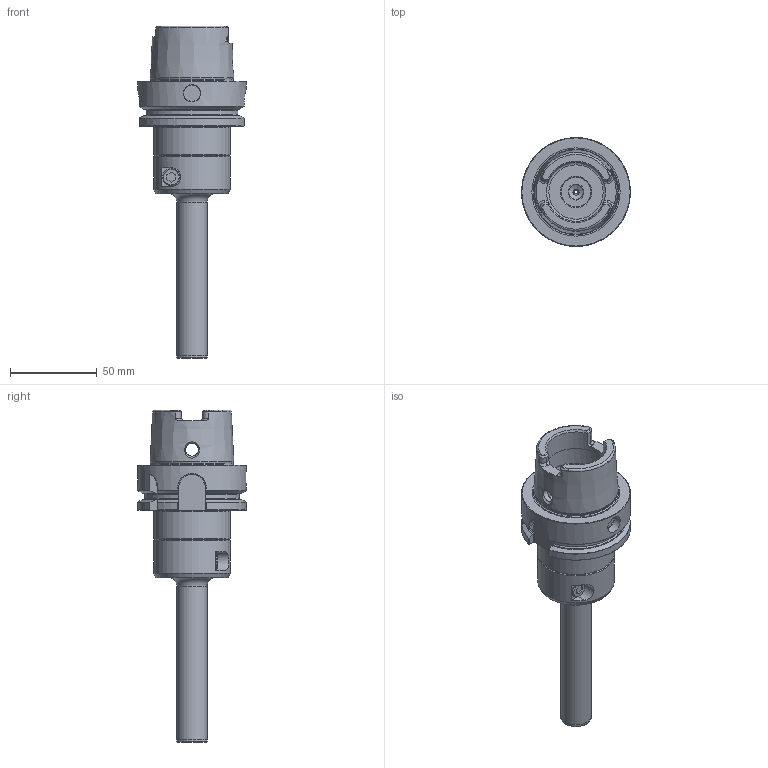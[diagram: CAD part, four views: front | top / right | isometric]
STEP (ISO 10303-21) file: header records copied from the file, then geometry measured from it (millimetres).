
FILE_DESCRIPTION(/* description */ (''),/* implementation_level */ '2;1');
FILE_NAME(/* name */ 'HSK63AHCSLT10160M_GTM.stp',/* time_stamp */ '2016-10-06T08:13:25+01:00',/* author */ (''),/* organization */ (''),/* preprocessor_version */ 'ST-DEVELOPER v15',/* originating_system */ 'SIEMENS PLM Software NX 9.0',/* authorisation */ '');
FILE_SCHEMA (('AUTOMOTIVE_DESIGN { 1 0 10303 214 3 1 1 1 }'));
Length unit declared in the file: millimetre
Products named in the file (1): HSK63AHCSLT10160M_GTM
Bounding box: 62.94 x 62.94 x 191.9 mm (x, y, z)
Volume: 160019.4 mm3; surface area: 38478.6 mm2
Topology: 2 solids, 2 shells, 206 faces, 523 edges, 333 vertices
Faces by surface type: plane 75, cylinder 59, torus 35, cone 31, bspline 6
Full cylindrical faces by diameter (mm): 3.5 x1, 7.5 x2, 8.4 x1, 10 x2, 10.045 x1, 12 x2, 14.4 x2, 17.035 x1, 17.5 x2, 18.55 x1, 34.05 x2, 40.08 x1, 44.45 x2, 47.941 x1, 62.94 x1
Entity records: 7779 total; most frequent: CARTESIAN_POINT 3211, ORIENTED_EDGE 902, DIRECTION 898, EDGE_CURVE 451, AXIS2_PLACEMENT_3D 373, VERTEX_POINT 310, EDGE_LOOP 273, ADVANCED_FACE 205
